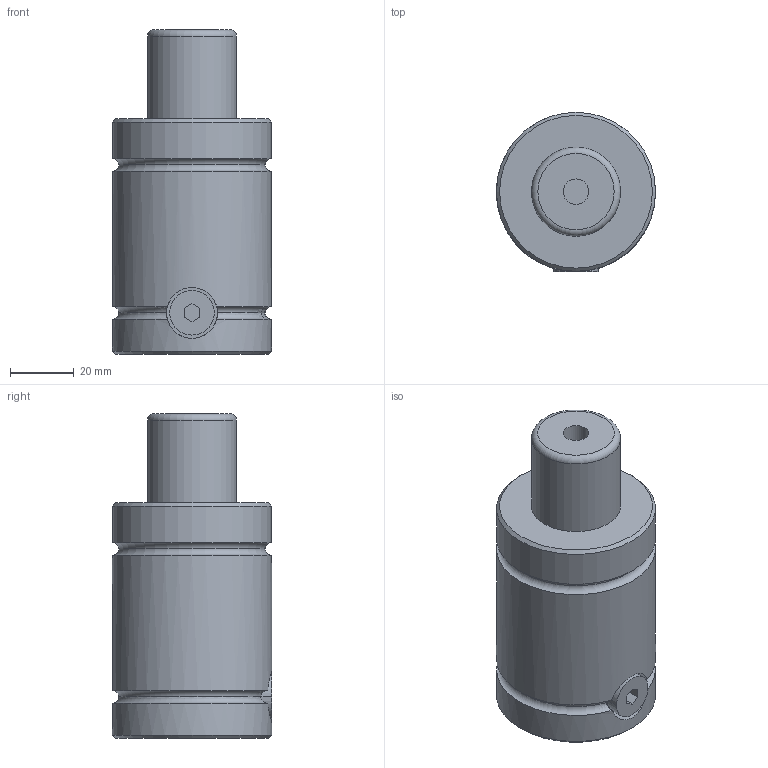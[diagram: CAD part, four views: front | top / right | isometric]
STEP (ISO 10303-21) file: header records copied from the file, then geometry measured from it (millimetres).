
FILE_DESCRIPTION(('FreeCAD Model'),'2;1');
FILE_NAME('Open CASCADE Shape Model','2024-11-13T15:02:26',('Author'),( ''),'Open CASCADE STEP processor 7.6','FreeCAD','Unknown');
FILE_SCHEMA(('AUTOMOTIVE_DESIGN { 1 0 10303 214 1 1 1 1 }'));
Length unit declared in the file: millimetre
Products named in the file (7): Unnamed; Part005; Cut001; Part009; 3; Part010; Cut003
Assembly tree (6 placements, depth 3):
  Unnamed
    Part005
      Cut001
    Part009
      3
    Part010
      Cut003
Bounding box: 50 x 50 x 102 mm (x, y, z)
Volume: 157960.4 mm3; surface area: 21644 mm2
Topology: 3 solids, 3 shells, 41 faces, 78 edges, 48 vertices
Faces by surface type: plane 18, cylinder 12, torus 7, cone 4
Full cylindrical faces by diameter (mm): 8 x1, 10 x2, 16 x1, 28 x1, 50 x3
Entity records: 1411 total; most frequent: CARTESIAN_POINT 416, DIRECTION 206, ORIENTED_EDGE 156, AXIS2_PLACEMENT_3D 86, EDGE_CURVE 78, VERTEX_POINT 48, FACE_BOUND 46, EDGE_LOOP 46
